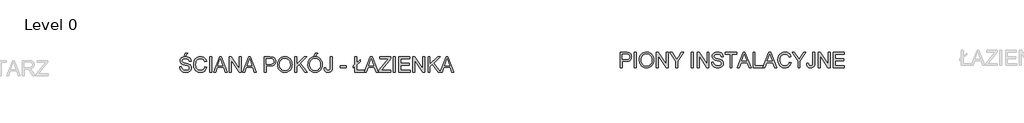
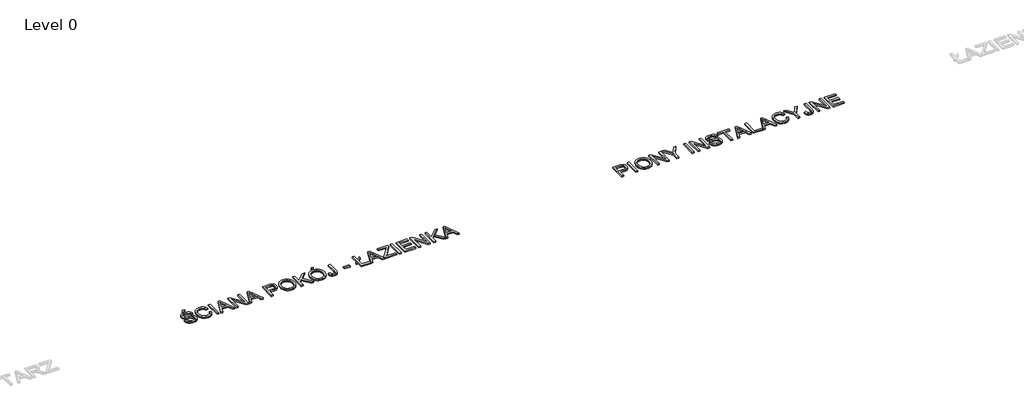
# One storey, part 3 of 4: 2 proxies.
"""IFC4 building model written with IfcOpenShell, lengths in millimetres."""

import ifcopenshell
import ifcopenshell.guid

model = None  # the IFC model being written
_history = None  # IfcOwnerHistory: only IFC2X3 demands one
_inside = {}  # id of a spatial element -> (the spatial element, [elements in it])
_under = {}  # id of a project, library or spatial element -> (it, [spatial elements below it])
_declared = {}  # id of a project -> (the project, [libraries it declares])
_typed = {}  # id of a type object -> (the type object, [elements of that type])
_made_of = {}  # id of a material, layer set ... -> (it, [elements and type objects made of it])


def new_model(schema):
    """Start an empty IFC model of exactly this schema.

    Asked for "IFC4X3", IfcOpenShell would pick the latest addendum, in which some entities
    have other attributes; the version numbers below select the first issue.
    IFC2X3 requires an IfcOwnerHistory on every rooted entity: one is made here for all.
    """
    global model, _history
    if schema == "IFC4X3":
        model = ifcopenshell.file(schema_version=(4, 3, 0, 0))
    else:
        model = ifcopenshell.file(schema=schema)
    _inside.clear()
    _under.clear()
    _declared.clear()
    _typed.clear()
    _made_of.clear()
    _history = None
    if model.schema == "IFC2X3":
        org = make("IfcOrganization", Name="unknown")
        user = make(
            "IfcPersonAndOrganization",
            ThePerson=make("IfcPerson", FamilyName="unknown"),
            TheOrganization=org,
        )
        app = make(
            "IfcApplication",
            ApplicationDeveloper=org,
            Version="unknown",
            ApplicationFullName="unknown",
            ApplicationIdentifier="unknown",
        )
        _history = make(
            "IfcOwnerHistory",
            OwningUser=user,
            OwningApplication=app,
            ChangeAction="ADDED",
            CreationDate=0,
        )
    return model


def make(cls, **values):
    """One entity of the class cls with the attributes given. An attribute that is None is left unset."""
    return model.create_entity(
        cls, **{name: value for name, value in values.items() if value is not None}
    )


def rooted(cls, **values):
    """An entity with a GlobalId (a new one), such as an element, a storey or a relation."""
    return make(cls, GlobalId=ifcopenshell.guid.new(), OwnerHistory=_history, **values)


def si_unit(unit_type, name, prefix=None):
    """IfcSIUnit, for example si_unit("LENGTHUNIT", "METRE", prefix="MILLI")."""
    return make("IfcSIUnit", UnitType=unit_type, Prefix=prefix, Name=name)


def assignment(units):
    """IfcUnitAssignment: the units of a project."""
    return None if units is None else make("IfcUnitAssignment", Units=units)


def point(xyz):
    """IfcCartesianPoint."""
    return None if xyz is None else make("IfcCartesianPoint", Coordinates=xyz)


def direction(xyz):
    """IfcDirection."""
    return None if xyz is None else make("IfcDirection", DirectionRatios=xyz)


def frame(location, z_axis=None, x_axis=None):
    """IfcAxis2Placement3D, a coordinate frame: its origin and axes. An axis left out is left unset."""
    return make(
        "IfcAxis2Placement3D",
        Location=point(location),
        Axis=direction(z_axis),
        RefDirection=direction(x_axis),
    )


def origin():
    """The frame at (0, 0, 0) with its axes left unset."""
    return frame((0.0, 0.0, 0.0))


def origin_with_axes():
    """The frame at (0, 0, 0) with the z axis (0, 0, 1) and the x axis (1, 0, 0) written out."""
    return frame((0.0, 0.0, 0.0), z_axis=(0.0, 0.0, 1.0), x_axis=(1.0, 0.0, 0.0))


def place(relative_to, where):
    """IfcLocalPlacement: puts the frame where relative to a parent placement (None: the world)."""
    return make(
        "IfcLocalPlacement", PlacementRelTo=relative_to, RelativePlacement=where
    )


def context(
    kind, dimensions, precision=None, world=None, true_north=None, identifier=None
):
    """IfcGeometricRepresentationContext, for example the 3D "Model" context."""
    return make(
        "IfcGeometricRepresentationContext",
        ContextIdentifier=identifier,
        ContextType=kind,
        CoordinateSpaceDimension=dimensions,
        Precision=precision,
        WorldCoordinateSystem=world,
        TrueNorth=true_north,
    )


def project(units=None, contexts=None):
    """IfcProject with its units and contexts."""
    return rooted(
        "IfcProject",
        Name="project",
        RepresentationContexts=contexts,
        UnitsInContext=assignment(units),
    )


def spatial(cls, under=None, at=None, **own):
    """A site, building, storey or space (cls), placed at a placement, below another one or the project."""
    s = rooted(cls, ObjectPlacement=at, **own)
    if under is not None:
        _under.setdefault(under.id(), (under, []))[1].append(s)
    return s


def polyline(points):
    """IfcPolyline through the points."""
    return make("IfcPolyline", Points=[point(p) for p in points])


def outline(outer, holes=None, kind="AREA"):
    """IfcArbitraryClosedProfileDef: a profile drawn as a closed curve; with holes, ...WithVoids."""
    if holes is None:
        return make("IfcArbitraryClosedProfileDef", ProfileType=kind, OuterCurve=outer)
    return make(
        "IfcArbitraryProfileDefWithVoids",
        ProfileType=kind,
        OuterCurve=outer,
        InnerCurves=holes,
    )


def extrude(swept, where, along, depth):
    """IfcExtrudedAreaSolid: the profile swept, set in the frame where, extruded along a direction by depth."""
    return make(
        "IfcExtrudedAreaSolid",
        SweptArea=swept,
        Position=where,
        ExtrudedDirection=direction(along),
        Depth=depth,
    )


def shape(context_of_items, identifier, shape_type, items):
    """IfcShapeRepresentation: the items that make up one representation, for example the "Body"."""
    return make(
        "IfcShapeRepresentation",
        ContextOfItems=context_of_items,
        RepresentationIdentifier=identifier,
        RepresentationType=shape_type,
        Items=items,
    )


def made_of(thing, what):
    """Note that an element or type object is made of a material, layer set ...; save() writes the relation."""
    if what is not None:
        _made_of.setdefault(what.id(), (what, []))[1].append(thing)
    return thing


def element(
    cls,
    number,
    at=None,
    inside=None,
    cuts=None,
    type_object=None,
    material=None,
    context=None,
    identifier="Body",
    shape_type=None,
    held_by="IfcProductDefinitionShape",
    body=None,
    shapes=None,
    **own,
):
    """One element of the class cls, such as IfcWall. Its Tag is "e" and its number.

    at: its placement. inside: the storey or other place that contains it. cuts: it is an
    opening in that element (IfcRelVoidsElement). A single representation is given by context,
    identifier, shape_type and body (its items); several are given by shapes. held_by: the class
    of the entity that holds the representations. save() writes the other relations.
    """
    e = rooted(cls, Tag="e%d" % number, ObjectPlacement=at, **own)
    if body is not None:
        shapes = [shape(context, identifier, shape_type, body)]
    if shapes is not None:
        e.Representation = make(held_by, Representations=shapes)
    if inside is not None:
        _inside.setdefault(inside.id(), (inside, []))[1].append(e)
    if cuts is not None:
        rooted(
            "IfcRelVoidsElement", RelatingBuildingElement=cuts, RelatedOpeningElement=e
        )
    if type_object is not None:
        _typed.setdefault(type_object.id(), (type_object, []))[1].append(e)
    return made_of(e, material)


def aggregate(whole, parts):
    """IfcRelAggregates: a whole, such as a stair, and the parts it consists of."""
    return rooted("IfcRelAggregates", RelatingObject=whole, RelatedObjects=parts)


def save(model, path):
    """Write the relations noted so far, then the file.

    IfcRelAggregates (storeys below a building ...), IfcRelContainedInSpatialStructure (elements
    in a storey), IfcRelDefinesByType, IfcRelAssociatesMaterial and IfcRelDeclares: one each for
    every whole, place, type object, material and project.
    """
    for whole, parts in _under.values():
        aggregate(whole, parts)
    for where, things in _inside.values():
        rooted(
            "IfcRelContainedInSpatialStructure",
            RelatedElements=things,
            RelatingStructure=where,
        )
    for kind, things in _typed.values():
        rooted("IfcRelDefinesByType", RelatedObjects=things, RelatingType=kind)
    for what, things in _made_of.values():
        rooted("IfcRelAssociatesMaterial", RelatedObjects=things, RelatingMaterial=what)
    for by, libraries in _declared.values():
        rooted("IfcRelDeclares", RelatingContext=by, RelatedDefinitions=libraries)
    model.write(path)


model = new_model("IFC4")

# Units and contexts
model_context = context("Model", 3, world=origin())
ifc_project = project(units=[si_unit("LENGTHUNIT", "METRE", prefix="MILLI")], contexts=[model_context])

# Site, building, storey
site = spatial("IfcSite", under=ifc_project)
building = spatial("IfcBuilding", under=site)
storey = spatial("IfcBuildingStorey", under=building, Name="Level 0", Elevation=0.0)

# Proxies
placement = place(None, origin())
element("IfcBuildingElementProxy", 1, Name="600mm Arial", ObjectType="600mm Arial", at=placement, inside=storey, context=model_context, shape_type="SweptSolid", body=[
    extrude(outline(polyline([(108275.8713044, 14292.1380657), (108275.8713044, 14894.8759266), (108499.2492519, 14894.8759266), (108551.267766, 14893.4411868), (108589.3067643, 14889.1369675), (108629.4610841, 14878.4132073), (108662.5152814, 14860.9572067), (108689.1315437, 14835.9780192), (108709.9720587, 14802.6846986), (108723.4365398, 14763.4132956), (108727.9247001, 14720.4998609), (108724.8942722, 14683.5001292), (108715.8029884, 14649.4618476), (108700.6508487, 14618.3850161), (108679.4378531, 14590.2696346), (108650.3153947, 14566.9643102), (108611.4348663, 14550.3176499), (108562.7962681, 14540.3296538), (108504.3995998, 14537.0003217), (108351.2135371, 14537.0003217), (108351.2135371, 14292.1380657), (108275.8713044, 14292.1380657)]), holes=[polyline([(108351.2135371, 14612.3425543), (108508.8141838, 14612.3425543), (108545.0505603, 14614.0715997), (108575.6215541, 14619.2587358), (108600.5271652, 14627.9039627), (108619.7673935, 14640.0072804), (108634.1239884, 14655.246792), (108644.378699, 14673.3006009), (108650.5315254, 14694.1687071), (108652.5824675, 14717.8511105), (108647.7448193, 14751.6962541), (108633.2318746, 14780.2438969), (108610.8462551, 14801.7282054), (108582.3905828, 14814.3833461), (108553.3279052, 14818.246107), (108507.0483502, 14819.533694), (108351.2135371, 14819.533694), (108351.2135371, 14612.3425543)])]), origin_with_axes(), (0.0, 0.0, 1.0), 50.0),
    extrude(outline(polyline([(108840.938049, 14292.1380657), (108840.938049, 14894.8759266), (108916.2802816, 14894.8759266), (108916.2802816, 14292.1380657), (108840.938049, 14292.1380657)])), origin_with_axes(), (0.0, 0.0, 1.0), 50.0),
    extrude(outline(polyline([(109038.7114096, 14585.5607451), (109043.7329989, 14656.2584675), (109058.7977666, 14718.8443919), (109083.9057127, 14773.3185184), (109100.2258778, 14797.5136573), (109119.0568374, 14819.6808468), (109162.1450161, 14856.6989726), (109211.0641244, 14883.140491), (109265.8141623, 14899.005402), (109326.3951299, 14904.2937057), (109366.9449228, 14901.8105022), (109405.4529706, 14894.3608918), (109441.9192734, 14881.9448745), (109476.3438311, 14864.5624502), (109507.7609535, 14842.7378508), (109535.2049503, 14816.9953082), (109558.6758216, 14787.3348224), (109578.1735674, 14753.7563933), (109593.4958525, 14717.023376), (109604.4403418, 14677.8991259), (109611.0070354, 14636.3836427), (109613.1959333, 14592.4769266), (109610.8920723, 14547.9907963), (109603.9804893, 14505.9142931), (109592.4611844, 14466.247417), (109576.3341574, 14428.9901679), (109555.981086, 14395.1266303), (109531.7836478, 14365.6408883), (109503.7418427, 14340.5329422), (109471.8556708, 14319.8027917), (109437.3805293, 14303.5791958), (109401.5718156, 14291.9909129), (109364.4295296, 14285.0379432), (109325.9536715, 14282.7202866), (109284.6957057, 14285.281665), (109245.6818201, 14292.9658002), (109208.9120147, 14305.7726922), (109174.3862895, 14323.7023409), (109143.0059553, 14346.0603692), (109115.672323, 14372.1523997), (109092.3853927, 14401.9784324), (109073.1451644, 14435.5384674), (109058.0803967, 14471.4851369), (109047.3198483, 14508.471073), (109040.8635193, 14546.4962757), (109038.7114096, 14585.5607451)]), holes=[polyline([(109114.0536423, 14584.8249811), (109117.8198342, 14534.8758032), (109129.11841, 14490.5368257), (109147.9493696, 14451.8080487), (109174.3127131, 14418.6894721), (109206.3598334, 14392.1651802), (109242.2421235, 14373.2192574), (109281.9595834, 14361.8517038), (109325.5122131, 14358.0625192), (109369.8098038, 14361.888492), (109409.9963133, 14373.3664102), (109446.0717414, 14392.496274), (109478.0360883, 14419.2780832), (109504.2062937, 14453.0956357), (109522.8992976, 14493.3327289), (109534.1150999, 14539.9893629), (109537.8537007, 14593.0655378), (109536.253414, 14627.5452778), (109531.452554, 14659.7625435), (109523.4511206, 14689.7173349), (109512.2491138, 14717.4096521), (109497.9706939, 14742.4762116), (109480.7400209, 14764.5537298), (109460.557095, 14783.6422068), (109437.421916, 14799.7416427), (109412.0518539, 14812.5209435), (109385.1642786, 14821.6490155), (109356.75919, 14827.1258587), (109326.8365883, 14828.9514731), (109284.7968733, 14825.4336015), (109245.7921847, 14814.8799868), (109209.8225226, 14797.2906289), (109176.887887, 14772.6655278), (109149.3979049, 14739.8182642), (109129.7622034, 14697.5624185), (109117.9807825, 14645.8979908), (109114.0536423, 14584.8249811)])]), origin_with_axes(), (0.0, 0.0, 1.0), 50.0),
    extrude(outline(polyline([(109716.7915031, 14292.1380657), (109716.7915031, 14894.8759266), (109797.4312365, 14894.8759266), (110112.3382244, 14417.3650969), (110112.3382244, 14894.8759266), (110187.680457, 14894.8759266), (110187.680457, 14292.1380657), (110107.0407236, 14292.1380657), (109792.1337358, 14769.7960482), (109792.1337358, 14292.1380657), (109716.7915031, 14292.1380657)])), origin_with_axes(), (0.0, 0.0, 1.0), 50.0),
    extrude(outline(polyline([(110489.0493874, 14292.1380657), (110489.0493874, 14547.4481704), (110253.6049105, 14894.8759266), (110342.4852005, 14894.8759266), (110468.1536901, 14709.3162482), (110532.4594629, 14614.6969991), (110596.9123884, 14716.085277), (110710.9558069, 14894.8759266), (110799.8360969, 14894.8759266), (110564.39162, 14547.4481704), (110564.39162, 14292.1380657), (110489.0493874, 14292.1380657)])), origin_with_axes(), (0.0, 0.0, 1.0), 50.0),
    extrude(outline(polyline([(111110.6228065, 14292.1380657), (111110.6228065, 14894.8759266), (111185.9650391, 14894.8759266), (111185.9650391, 14292.1380657), (111110.6228065, 14292.1380657)])), origin_with_axes(), (0.0, 0.0, 1.0), 50.0),
    extrude(outline(polyline([(111336.6495043, 14292.1380657), (111336.6495043, 14894.8759266), (111417.2892377, 14894.8759266), (111732.1962255, 14417.3650969), (111732.1962255, 14894.8759266), (111807.5384581, 14894.8759266), (111807.5384581, 14292.1380657), (111726.8987248, 14292.1380657), (111411.9917369, 14769.7960482), (111411.9917369, 14292.1380657), (111336.6495043, 14292.1380657)])), origin_with_axes(), (0.0, 0.0, 1.0), 50.0),
    extrude(outline(polyline([(111911.134028, 14499.3292054), (111986.4762606, 14499.3292054), (111995.1214875, 14457.5194166), (112010.7564723, 14423.9133964), (112035.1470486, 14397.2419517), (112070.0590499, 14376.2358898), (112112.7333613, 14362.6058619), (112160.4108679, 14358.0625192), (112202.3862036, 14361.5022159), (112239.1376149, 14371.8213059), (112268.9176624, 14388.1552665), (112289.9789066, 14409.639575), (112302.5052885, 14434.3060627), (112306.6807492, 14460.1865611), (112303.5537522, 14485.4048719), (112294.1727614, 14507.2018801), (112275.116474, 14525.7983149), (112242.9635876, 14541.4149056), (112133.2611767, 14570.1832777), (112061.2482761, 14589.2211709), (112015.1710562, 14607.3393592), (111977.6654868, 14632.6864286), (111951.0860127, 14663.4045752), (111935.2486928, 14698.8316114), (111929.9695861, 14738.3053495), (111931.6020625, 14760.7415526), (111936.4994915, 14782.4327948), (111944.6618733, 14803.3790759), (111956.0892078, 14823.5803959), (111970.6527363, 14842.213619), (111988.2237001, 14858.4556091), (112008.8020992, 14872.3063662), (112032.3879336, 14883.7658904), (112085.3997291, 14899.1617519), (112144.0769073, 14904.2937057), (112207.6469161, 14898.9226286), (112263.2706738, 14882.8093972), (112287.6060677, 14870.8072471), (112308.9616176, 14856.2851053), (112327.3373232, 14839.2429719), (112342.7331847, 14819.6808468), (112355.0296404, 14798.1689471), (112364.1071286, 14775.27749), (112369.9656494, 14751.0064753), (112372.6052027, 14725.3559032), (112297.2629701, 14725.3559032), (112292.2229868, 14749.3969916), (112283.4306071, 14770.311083), (112270.8858311, 14788.0981775), (112254.5886587, 14802.758275), (112234.2355873, 14814.2177992), (112209.5231143, 14822.4031736), (112180.4512396, 14827.3143982), (112147.0199633, 14828.9514731), (112112.5218292, 14827.3327923), (112083.0452843, 14822.47675), (112058.5903287, 14814.3833461), (112039.1569623, 14803.0525806), (112024.349712, 14789.4317497), (112013.7731046, 14774.4681496), (112007.4271402, 14758.1617802), (112005.3118187, 14740.5126414), (112006.8109379, 14725.3283121), (112011.3082953, 14711.5603284), (112018.8038909, 14699.2086904), (112029.2977248, 14688.2733981), (112045.8156264, 14677.91752), (112071.8248835, 14667.4512772), (112152.317464, 14646.1876979), (112235.3852185, 14625.9909763), (112285.6378991, 14608.3694288), (112328.588122, 14581.0357965), (112345.1933956, 14564.9685504), (112358.5521105, 14547.3010176), (112368.8206167, 14528.1251686), (112376.155264, 14507.5329739), (112382.0229818, 14462.0995475), (112380.3353232, 14438.5321072), (112375.2723472, 14415.6544456), (112366.8340539, 14393.4665628), (112355.0204434, 14371.9684587), (112340.0384491, 14351.9924663), (112322.0950048, 14334.3709188), (112301.1901104, 14319.103816), (112277.323766, 14306.1911579), (112251.1903487, 14295.9226517), (112223.484236, 14288.5880045), (112163.3539239, 14282.7202866), (112124.8136864, 14284.3021792), (112089.5384015, 14289.047857), (112057.5280694, 14296.9573198), (112028.78269, 14308.0305679), (112003.1275194, 14322.2859952), (111980.3878136, 14339.7419959), (111960.5635726, 14360.3985699), (111943.6547964, 14384.2557173), (111930.0339655, 14410.5408859), (111920.0735605, 14438.4815234), (111913.7735813, 14468.0776299), (111911.134028, 14499.3292054)])), origin_with_axes(), (0.0, 0.0, 1.0), 50.0),
    extrude(outline(polyline([(112645.7207959, 14292.1380657), (112645.7207959, 14819.533694), (112447.9474353, 14819.533694), (112447.9474353, 14894.8759266), (112918.8363892, 14894.8759266), (112918.8363892, 14819.533694), (112721.0630286, 14819.533694), (112721.0630286, 14292.1380657), (112645.7207959, 14292.1380657)])), origin_with_axes(), (0.0, 0.0, 1.0), 50.0),
    extrude(outline(polyline([(112933.4045162, 14292.1380657), (113173.999341, 14894.8759266), (113238.157961, 14894.8759266), (113478.7527858, 14292.1380657), (113399.1431221, 14292.1380657), (113330.1284598, 14480.4936472), (113081.8816894, 14480.4936472), (113013.0141799, 14292.1380657), (112933.4045162, 14292.1380657)]), holes=[polyline([(113109.5464155, 14555.8358799), (113302.6108865, 14555.8358799), (113248.311504, 14704.0187475), (113206.078651, 14819.533694), (113168.5546875, 14716.9681937), (113109.5464155, 14555.8358799)])]), origin_with_axes(), (0.0, 0.0, 1.0), 50.0),
    extrude(outline(polyline([(113559.2453664, 14292.1380657), (113559.2453664, 14894.8759266), (113634.587599, 14894.8759266), (113634.587599, 14367.4802983), (113935.9565294, 14367.4802983), (113935.9565294, 14292.1380657), (113559.2453664, 14292.1380657)])), origin_with_axes(), (0.0, 0.0, 1.0), 50.0),
    extrude(outline(polyline([(113950.5246564, 14292.1380657), (114191.1194813, 14894.8759266), (114255.2781012, 14894.8759266), (114495.8729261, 14292.1380657), (114416.2632623, 14292.1380657), (114347.2486, 14480.4936472), (114099.0018297, 14480.4936472), (114030.1343202, 14292.1380657), (113950.5246564, 14292.1380657)]), holes=[polyline([(114126.6665557, 14555.8358799), (114319.7310268, 14555.8358799), (114265.4316443, 14704.0187475), (114223.1987913, 14819.533694), (114185.6748278, 14716.9681937), (114126.6665557, 14555.8358799)])]), origin_with_axes(), (0.0, 0.0, 1.0), 50.0),
    extrude(outline(polyline([(115000.1655651, 14506.3925397), (115075.5077977, 14486.9683704), (115060.5993798, 14440.1139997), (115040.7429491, 14399.1733322), (115015.9385056, 14364.1463677), (114986.1860493, 14335.0331063), (114952.1569647, 14312.1462477), (114914.5226366, 14295.7984916), (114873.2830649, 14285.9898379), (114828.4382497, 14282.7202866), (114782.4943871, 14285.1942931), (114741.0478818, 14292.6163123), (114704.0987339, 14304.9863444), (114671.6469434, 14322.3043893), (114643.2464534, 14344.3129297), (114618.4512069, 14370.7544481), (114597.261204, 14401.6289445), (114579.6764446, 14436.936419), (114565.8670742, 14475.1501613), (114556.0032382, 14514.743461), (114550.0849366, 14555.7163182), (114548.1121694, 14598.0687329), (114550.342454, 14643.5113564), (114557.0333078, 14685.9557415), (114568.1847308, 14725.4018885), (114583.7967229, 14761.8497972), (114603.5197964, 14794.6970608), (114627.0044633, 14823.3412726), (114654.2507235, 14847.7824327), (114685.2585772, 14868.020541), (114718.9749621, 14883.8900505), (114754.3468159, 14895.2254145), (114791.3741387, 14902.0266329), (114830.0569305, 14904.2937057), (114873.1497077, 14901.3598468), (114912.6648325, 14892.55827), (114948.6023049, 14877.8889755), (114980.9621249, 14857.3519631), (115009.2108636, 14831.4898588), (115032.8150922, 14800.8452886), (115051.7748105, 14765.4182525), (115066.0900186, 14725.2087504), (114990.747786, 14707.2561091), (114978.8835917, 14736.8844053), (114964.6281643, 14762.199285), (114947.9815041, 14783.2007484), (114928.9436108, 14799.8887955), (114907.40412, 14812.6037169), (114883.252667, 14821.6858037), (114856.4892519, 14827.1350557), (114827.1138745, 14828.9514731), (114793.3147162, 14826.9373192), (114762.4034316, 14820.8948574), (114734.3800206, 14810.8240878), (114709.2444833, 14796.7250103), (114687.3141179, 14779.2322214), (114668.9062225, 14758.9803176), (114654.0207973, 14735.9692988), (114642.6578422, 14710.199165), (114628.2552621, 14655.053654), (114623.454402, 14598.2158857), (114629.1381788, 14528.6126122), (114636.2428999, 14497.3426426), (114646.1895093, 14468.4271178), (114659.1389556, 14442.4408534), (114675.2521869, 14419.9586649), (114694.5292035, 14400.9805525), (114716.9700052, 14385.5065161), (114741.4847416, 14373.4997675), (114766.9835624, 14364.9235185), (114793.4664676, 14359.7777691), (114820.933457, 14358.0625192), (114853.6887502, 14360.3985699), (114883.8228841, 14367.4067219), (114911.3358588, 14379.0869753), (114936.2276743, 14395.43933), (114957.9097194, 14416.3902096), (114975.7933829, 14441.8660377), (114989.8786648, 14471.8668145), (115000.1655651, 14506.3925397)])), origin_with_axes(), (0.0, 0.0, 1.0), 50.0),
    extrude(outline(polyline([(115348.6233909, 14292.1380657), (115348.6233909, 14547.4481704), (115113.178914, 14894.8759266), (115202.059204, 14894.8759266), (115327.7276936, 14709.3162482), (115392.0334663, 14614.6969991), (115456.4863919, 14716.085277), (115570.5298104, 14894.8759266), (115659.4101004, 14894.8759266), (115423.9656235, 14547.4481704), (115423.9656235, 14292.1380657), (115348.6233909, 14292.1380657)])), origin_with_axes(), (0.0, 0.0, 1.0), 50.0),
    extrude(outline(polyline([(115687.6634377, 14461.3637835), (115763.0056703, 14471.0758682), (115765.6636177, 14441.1210767), (115770.8415568, 14416.2982391), (115778.5394875, 14396.6073553), (115788.7574099, 14382.0484253), (115801.3389742, 14371.5545914), (115816.1278304, 14364.0589958), (115833.1239786, 14359.5616384), (115852.3274187, 14358.0625192), (115880.1576916, 14361.4654277), (115903.9044744, 14371.6741531), (115922.2249978, 14387.7505963), (115933.7764924, 14408.7566582), (115939.9017277, 14439.1621051), (115941.9434727, 14483.4367032), (115941.9434727, 14894.8759266), (116017.2857053, 14894.8759266), (116017.2857053, 14484.7610784), (116012.7423627, 14417.6777966), (116007.0631844, 14390.5510979), (115999.1123348, 14367.7010275), (115988.6920773, 14348.2170774), (115975.6046753, 14331.1887395), (115959.8501288, 14316.616014), (115941.4284379, 14304.4989007), (115898.5150032, 14288.1649402), (115848.7957516, 14282.7202866), (115811.6672612, 14285.5299854), (115779.1556899, 14293.9590816), (115751.2610376, 14308.0075753), (115727.9833043, 14327.6754664), (115709.7363574, 14352.8891787), (115696.9340639, 14383.5751356), (115689.576424, 14419.7333372), (115687.6634377, 14461.3637835)])), origin_with_axes(), (0.0, 0.0, 1.0), 50.0),
    extrude(outline(polyline([(116149.1346124, 14292.1380657), (116149.1346124, 14894.8759266), (116229.7743458, 14894.8759266), (116544.6813336, 14417.3650969), (116544.6813336, 14894.8759266), (116620.0235662, 14894.8759266), (116620.0235662, 14292.1380657), (116539.3838329, 14292.1380657), (116224.476845, 14769.7960482), (116224.476845, 14292.1380657), (116149.1346124, 14292.1380657)])), origin_with_axes(), (0.0, 0.0, 1.0), 50.0),
    extrude(outline(polyline([(116751.8724733, 14292.1380657), (116751.8724733, 14894.8759266), (117185.0903108, 14894.8759266), (117185.0903108, 14819.533694), (116827.2147059, 14819.533694), (116827.2147059, 14640.5958915), (117166.2547527, 14640.5958915), (117166.2547527, 14565.2536589), (116827.2147059, 14565.2536589), (116827.2147059, 14367.4802983), (117194.5080899, 14367.4802983), (117194.5080899, 14292.1380657), (116751.8724733, 14292.1380657)])), origin_with_axes(), (0.0, 0.0, 1.0), 50.0),
])
element("IfcBuildingElementProxy", 2, Name="600mm Arial", ObjectType="600mm Arial", at=placement, inside=storey, context=model_context, shape_type="SweptSolid", body=[
    extrude(outline(polyline([(90757.8908742, 14317.065424), (90833.2331068, 14317.065424), (90841.8783337, 14275.2556352), (90857.5133185, 14241.6496149), (90881.9038947, 14214.9781703), (90916.8158961, 14193.9721084), (90959.4902075, 14180.3420805), (91007.1677141, 14175.7987378), (91049.1430498, 14179.2384345), (91085.8944611, 14189.5575244), (91115.6745086, 14205.891485), (91136.7357528, 14227.3757935), (91149.2621347, 14252.0422813), (91153.4375954, 14277.9227797), (91150.3105984, 14303.1410904), (91140.9296075, 14324.9380987), (91121.8733202, 14343.5345335), (91089.7204338, 14359.1511242), (90980.0180229, 14387.9194962), (90908.0051223, 14406.9573895), (90861.9279024, 14425.0755777), (90824.422333, 14450.4226472), (90797.8428588, 14481.1407938), (90782.005539, 14516.5678299), (90776.7264323, 14556.041568), (90778.3589087, 14578.4777712), (90783.2563377, 14600.1690133), (90791.4187195, 14621.1152944), (90802.846054, 14641.3166145), (90817.4095825, 14659.9498376), (90834.9805463, 14676.1918276), (90855.5589454, 14690.0425848), (90879.1447798, 14701.5021089), (90932.1565753, 14716.8979704), (90990.8337535, 14722.0299242), (91054.4037623, 14716.6588471), (91110.02752, 14700.5456157), (91134.3629139, 14688.5434656), (91155.7184638, 14674.0213239), (91174.0941694, 14656.9791905), (91189.4900309, 14637.4170654), (91201.7864866, 14615.9051657), (91210.8639748, 14593.0137085), (91216.7224956, 14568.7426939), (91219.3620489, 14543.0921218), (91144.0198163, 14543.0921218), (91138.979833, 14567.1332102), (91130.1874533, 14588.0473016), (91117.6426773, 14605.8343961), (91101.3455049, 14620.4944936), (91080.9924335, 14631.9540177), (91056.2799605, 14640.1393921), (91027.2080858, 14645.0506168), (90993.7768095, 14646.6876916), (90959.2786754, 14645.0690109), (90929.8021305, 14640.2129685), (90905.3471749, 14632.1195646), (90885.9138085, 14620.7887992), (90871.1065582, 14607.1679683), (90860.5299508, 14592.2043682), (90854.1839864, 14575.8979987), (90852.0686649, 14558.24886), (90853.5677841, 14543.0645306), (90858.0651415, 14529.296547), (90865.5607371, 14516.944909), (90876.054571, 14506.0096167), (90892.5724726, 14495.6537385), (90918.5817297, 14485.1874958), (90999.0743102, 14463.9239164), (91082.1420647, 14443.7271949), (91132.3947453, 14426.1056473), (91175.3449682, 14398.7720151), (91191.9502418, 14382.7047689), (91205.3089567, 14365.0372361), (91215.5774629, 14345.8613871), (91222.9121102, 14325.2691925), (91228.779828, 14279.835766), (91227.0921693, 14256.2683257), (91222.0291934, 14233.3906642), (91213.5909001, 14211.2027813), (91201.7772895, 14189.7046772), (91186.7952953, 14169.7286849), (91168.851851, 14152.1071373), (91147.9469566, 14136.8400345), (91124.0806122, 14123.9273765), (91097.9471949, 14113.6588703), (91070.2410822, 14106.324223), (91010.1107701, 14100.4565052), (90971.5705325, 14102.0383978), (90936.2952477, 14106.7840755), (90904.2849156, 14114.6935384), (90875.5395362, 14125.7667865), (90849.8843656, 14140.0222138), (90827.1446598, 14157.4782145), (90807.3204187, 14178.1347885), (90790.4116425, 14201.9919359), (90776.7908117, 14228.2771044), (90766.8304067, 14256.217742), (90760.5304275, 14285.8138485), (90757.8908742, 14317.065424)])), origin_with_axes(), (0.0, 0.0, 1.0), 50.0),
    extrude(outline(polyline([(90936.8286766, 14750.2832615), (90993.3353511, 14863.2966104), (91087.5131418, 14863.2966104), (90993.3353511, 14750.2832615), (90936.8286766, 14750.2832615)])), origin_with_axes(), (0.0, 0.0, 1.0), 50.0),
    extrude(outline(polyline([(91765.5932354, 14324.1287583), (91840.935468, 14304.7045889), (91826.0270501, 14257.8502183), (91806.1706194, 14216.9095508), (91781.3661759, 14181.8825863), (91751.6137195, 14152.7693249), (91717.584635, 14129.8824663), (91679.9503069, 14113.5347101), (91638.7107352, 14103.7260564), (91593.86592, 14100.4565052), (91547.9220573, 14102.9305116), (91506.4755521, 14110.3525309), (91469.5264042, 14122.722563), (91437.0746137, 14140.0406079), (91408.6741236, 14162.0491482), (91383.8788772, 14188.4906666), (91362.6888742, 14219.3651631), (91345.1041149, 14254.6726376), (91331.2947445, 14292.8863798), (91321.4309085, 14332.4796796), (91315.5126069, 14373.4525368), (91313.5398397, 14415.8049515), (91315.7701243, 14461.2475749), (91322.4609781, 14503.6919601), (91333.612401, 14543.138107), (91349.2243932, 14579.5860157), (91368.9474667, 14612.4332794), (91392.4321335, 14641.0774912), (91419.6783938, 14665.5186513), (91450.6862475, 14685.7567595), (91484.4026323, 14701.6262691), (91519.7744862, 14712.9616331), (91556.801809, 14719.7628515), (91595.4846008, 14722.0299242), (91638.577378, 14719.0960653), (91678.0925028, 14710.2944886), (91714.0299752, 14695.625194), (91746.3897952, 14675.0881817), (91774.6385339, 14649.2260774), (91798.2427624, 14618.5815072), (91817.2024808, 14583.1544711), (91831.5176889, 14542.944969), (91756.1754563, 14524.9923276), (91744.3112619, 14554.6206238), (91730.0558346, 14579.9355036), (91713.4091743, 14600.936967), (91694.3712811, 14617.625014), (91672.8317903, 14630.3399355), (91648.6803373, 14639.4220222), (91621.9169221, 14644.8712743), (91592.5415448, 14646.6876916), (91558.7423865, 14644.6735377), (91527.8311019, 14638.6310759), (91499.8076909, 14628.5603063), (91474.6721536, 14614.4612289), (91452.7417881, 14596.96844), (91434.3338928, 14576.7165362), (91419.4484676, 14553.7055174), (91408.0855124, 14527.9353836), (91393.6829323, 14472.7898725), (91388.8820723, 14415.9521043), (91394.5658491, 14346.3488308), (91401.6705702, 14315.0788612), (91411.6171796, 14286.1633364), (91424.5666258, 14260.1770719), (91440.6798572, 14237.6948835), (91459.9568738, 14218.7167711), (91482.3976755, 14203.2427347), (91506.9124119, 14191.235986), (91532.4112327, 14182.659737), (91558.8941378, 14177.5139876), (91586.3611273, 14175.7987378), (91619.1164205, 14178.1347885), (91649.2505544, 14185.1429405), (91676.7635291, 14196.8231938), (91701.6553446, 14213.1755485), (91723.3373897, 14234.1264281), (91741.2210532, 14259.6022563), (91755.3063351, 14289.603033), (91765.5932354, 14324.1287583)])), origin_with_axes(), (0.0, 0.0, 1.0), 50.0),
    extrude(outline(polyline([(91953.9488169, 14109.8742843), (91953.9488169, 14712.6121452), (92029.2910495, 14712.6121452), (92029.2910495, 14109.8742843), (91953.9488169, 14109.8742843)])), origin_with_axes(), (0.0, 0.0, 1.0), 50.0),
    extrude(outline(polyline([(92109.78363, 14109.8742843), (92350.3784549, 14712.6121452), (92414.5370748, 14712.6121452), (92655.1318997, 14109.8742843), (92575.5222359, 14109.8742843), (92506.5075736, 14298.2298658), (92258.2608033, 14298.2298658), (92189.3932938, 14109.8742843), (92109.78363, 14109.8742843)]), holes=[polyline([(92285.9255293, 14373.5720984), (92478.9900004, 14373.5720984), (92424.6906179, 14521.7549661), (92382.4577649, 14637.2699126), (92344.9338014, 14534.7044123), (92285.9255293, 14373.5720984)])]), origin_with_axes(), (0.0, 0.0, 1.0), 50.0),
    extrude(outline(polyline([(92735.6244802, 14109.8742843), (92735.6244802, 14712.6121452), (92816.2642136, 14712.6121452), (93131.1712015, 14235.1013154), (93131.1712015, 14712.6121452), (93206.5134341, 14712.6121452), (93206.5134341, 14109.8742843), (93125.8737007, 14109.8742843), (92810.9667129, 14587.5322668), (92810.9667129, 14109.8742843), (92735.6244802, 14109.8742843)])), origin_with_axes(), (0.0, 0.0, 1.0), 50.0),
    extrude(outline(polyline([(93268.1704565, 14109.8742843), (93508.7652813, 14712.6121452), (93572.9239013, 14712.6121452), (93813.5187261, 14109.8742843), (93733.9090624, 14109.8742843), (93664.8944001, 14298.2298658), (93416.6476297, 14298.2298658), (93347.7801202, 14109.8742843), (93268.1704565, 14109.8742843)]), holes=[polyline([(93444.3123557, 14373.5720984), (93637.3768268, 14373.5720984), (93583.0774443, 14521.7549661), (93540.8445913, 14637.2699126), (93503.3206278, 14534.7044123), (93444.3123557, 14373.5720984)])]), origin_with_axes(), (0.0, 0.0, 1.0), 50.0),
    extrude(outline(polyline([(94129.4557836, 14109.8742843), (94129.4557836, 14712.6121452), (94352.833731, 14712.6121452), (94404.8522452, 14711.1774054), (94442.8912435, 14706.873186), (94483.0455632, 14696.1494259), (94516.0997605, 14678.6934252), (94542.7160228, 14653.7142377), (94563.5565379, 14620.4209172), (94577.0210189, 14581.1495142), (94581.5091792, 14538.2360795), (94578.4787513, 14501.2363478), (94569.3874675, 14467.1980662), (94554.2353278, 14436.1212346), (94533.0223323, 14408.0058532), (94503.8998738, 14384.7005288), (94465.0193455, 14368.0538685), (94416.3807472, 14358.0658723), (94357.984079, 14354.7365403), (94204.7980162, 14354.7365403), (94204.7980162, 14109.8742843), (94129.4557836, 14109.8742843)]), holes=[polyline([(94204.7980162, 14430.0787729), (94362.3986629, 14430.0787729), (94398.6350394, 14431.8078183), (94429.2060332, 14436.9949544), (94454.1116443, 14445.6401813), (94473.3518727, 14457.7434989), (94487.7084675, 14472.9830106), (94497.9631781, 14491.0368195), (94504.1160045, 14511.9049257), (94506.1669466, 14535.5873291), (94501.3292984, 14569.4324726), (94486.8163537, 14597.9801155), (94464.4307343, 14619.464424), (94435.9750619, 14632.1195646), (94406.9123843, 14635.9823256), (94360.6328293, 14637.2699126), (94204.7980162, 14637.2699126), (94204.7980162, 14430.0787729)])]), origin_with_axes(), (0.0, 0.0, 1.0), 50.0),
    extrude(outline(polyline([(94656.8514119, 14403.2969636), (94661.8730011, 14473.9946861), (94676.9377688, 14536.5806105), (94702.045715, 14591.0547369), (94718.36588, 14615.2498759), (94737.1968396, 14637.4170654), (94780.2850183, 14674.4351911), (94829.2041266, 14700.8767095), (94883.9541645, 14716.7416206), (94944.5351321, 14722.0299242), (94985.084925, 14719.5467208), (95023.5929728, 14712.0971104), (95060.0592756, 14699.681093), (95094.4838333, 14682.2986688), (95125.9009557, 14660.4740694), (95153.3449525, 14634.7315268), (95176.8158238, 14605.0710409), (95196.3135696, 14571.4926118), (95211.6358547, 14534.7595946), (95222.580344, 14495.6353444), (95229.1470376, 14454.1198613), (95231.3359355, 14410.2131451), (95229.0320745, 14365.7270149), (95222.1204915, 14323.6505117), (95210.6011866, 14283.9836355), (95194.4741596, 14246.7263865), (95174.1210882, 14212.8628488), (95149.92365, 14183.3771069), (95121.8818449, 14158.2691607), (95089.995673, 14137.5390103), (95055.5205315, 14121.3154143), (95019.7118178, 14109.7271315), (94982.5695319, 14102.7741618), (94944.0936737, 14100.4565052), (94902.8357079, 14103.0178836), (94863.8218223, 14110.7020188), (94827.0520169, 14123.5089107), (94792.5262917, 14141.4385595), (94761.1459575, 14163.7965877), (94733.8123252, 14189.8886182), (94710.5253949, 14219.714651), (94691.2851666, 14253.274686), (94676.2203989, 14289.2213554), (94665.4598505, 14326.2072915), (94659.0035215, 14364.2324943), (94656.8514119, 14403.2969636)]), holes=[polyline([(94732.1936445, 14402.5611996), (94735.9598364, 14352.6120217), (94747.2584122, 14308.2730443), (94766.0893718, 14269.5442672), (94792.4527153, 14236.4256906), (94824.4998356, 14209.9013988), (94860.3821257, 14190.955476), (94900.0995856, 14179.5879224), (94943.6522153, 14175.7987378), (94987.949806, 14179.6247106), (95028.1363155, 14191.1026288), (95064.2117436, 14210.2324926), (95096.1760905, 14237.0143018), (95122.3462959, 14270.8318542), (95141.0392998, 14311.0689474), (95152.2551021, 14357.7255815), (95155.9937029, 14410.8017563), (95154.3934162, 14445.2814963), (95149.5925562, 14477.4987621), (95141.5911228, 14507.4535535), (95130.389116, 14535.1458707), (95116.1106961, 14560.2124301), (95098.8800232, 14582.2899484), (95078.6970972, 14601.3784254), (95055.5619182, 14617.4778612), (95030.1918561, 14630.257162), (95003.3042808, 14639.385234), (94974.8991923, 14644.8620772), (94944.9765905, 14646.6876916), (94902.9368755, 14643.1698201), (94863.9321869, 14632.6162053), (94827.9625249, 14615.0268474), (94795.0278892, 14590.4017464), (94767.5379071, 14557.5544827), (94747.9022057, 14515.2986371), (94736.1207848, 14463.6342094), (94732.1936445, 14402.5611996)])]), origin_with_axes(), (0.0, 0.0, 1.0), 50.0),
    extrude(outline(polyline([(95334.9315054, 14109.8742843), (95334.9315054, 14712.6121452), (95410.273738, 14712.6121452), (95410.273738, 14417.570785), (95719.2946139, 14712.6121452), (95824.6560173, 14712.6121452), (95565.2256343, 14464.8068332), (95834.0737964, 14109.8742843), (95741.9561448, 14109.8742843), (95511.8091686, 14413.8919651), (95410.273738, 14317.065424), (95410.273738, 14109.8742843), (95334.9315054, 14109.8742843)])), origin_with_axes(), (0.0, 0.0, 1.0), 50.0),
    extrude(outline(polyline([(96097.7716106, 14750.2832615), (96154.278285, 14863.2966104), (96248.4560758, 14863.2966104), (96154.278285, 14750.2832615), (96097.7716106, 14750.2832615)])), origin_with_axes(), (0.0, 0.0, 1.0), 50.0),
    extrude(outline(polyline([(95862.3271336, 14403.2969636), (95867.3487229, 14473.9946861), (95882.4134906, 14536.5806105), (95907.5214368, 14591.0547369), (95923.8416018, 14615.2498759), (95942.6725614, 14637.4170654), (95985.7607401, 14674.4351911), (96034.6798484, 14700.8767095), (96089.4298863, 14716.7416206), (96150.0108539, 14722.0299242), (96190.5606468, 14719.5467208), (96229.0686946, 14712.0971104), (96265.5349974, 14699.681093), (96299.9595551, 14682.2986688), (96331.3766775, 14660.4740694), (96358.8206743, 14634.7315268), (96382.2915456, 14605.0710409), (96401.7892914, 14571.4926118), (96417.1115765, 14534.7595946), (96428.0560658, 14495.6353444), (96434.6227594, 14454.1198613), (96436.8116573, 14410.2131451), (96434.5077963, 14365.7270149), (96427.5962133, 14323.6505117), (96416.0769084, 14283.9836355), (96399.9498814, 14246.7263865), (96379.59681, 14212.8628488), (96355.3993718, 14183.3771069), (96327.3575667, 14158.2691607), (96295.4713948, 14137.5390103), (96260.9962533, 14121.3154143), (96225.1875396, 14109.7271315), (96188.0452537, 14102.7741618), (96149.5693955, 14100.4565052), (96108.3114297, 14103.0178836), (96069.2975441, 14110.7020188), (96032.5277387, 14123.5089107), (95998.0020135, 14141.4385595), (95966.6216793, 14163.7965877), (95939.288047, 14189.8886182), (95916.0011167, 14219.714651), (95896.7608884, 14253.274686), (95881.6961207, 14289.2213554), (95870.9355723, 14326.2072915), (95864.4792433, 14364.2324943), (95862.3271336, 14403.2969636)]), holes=[polyline([(95937.6693663, 14402.5611996), (95941.4355582, 14352.6120217), (95952.734134, 14308.2730443), (95971.5650936, 14269.5442672), (95997.9284371, 14236.4256906), (96029.9755574, 14209.9013988), (96065.8578475, 14190.955476), (96105.5753074, 14179.5879224), (96149.1279371, 14175.7987378), (96193.4255278, 14179.6247106), (96233.6120373, 14191.1026288), (96269.6874654, 14210.2324926), (96301.6518123, 14237.0143018), (96327.8220177, 14270.8318542), (96346.5150216, 14311.0689474), (96357.7308239, 14357.7255815), (96361.4694247, 14410.8017563), (96359.869138, 14445.2814963), (96355.068278, 14477.4987621), (96347.0668446, 14507.4535535), (96335.8648378, 14535.1458707), (96321.5864179, 14560.2124301), (96304.355745, 14582.2899484), (96284.172819, 14601.3784254), (96261.03764, 14617.4778612), (96235.6675779, 14630.257162), (96208.7800026, 14639.385234), (96180.3749141, 14644.8620772), (96150.4523123, 14646.6876916), (96108.4125973, 14643.1698201), (96069.4079087, 14632.6162053), (96033.4382467, 14615.0268474), (96000.503611, 14590.4017464), (95973.0136289, 14557.5544827), (95953.3779275, 14515.2986371), (95941.5965066, 14463.6342094), (95937.6693663, 14402.5611996)])]), origin_with_axes(), (0.0, 0.0, 1.0), 50.0),
    extrude(outline(polyline([(96502.7361108, 14279.1000021), (96578.0783435, 14288.8120867), (96580.7362909, 14258.8572953), (96585.91423, 14234.0344576), (96593.6121607, 14214.3435739), (96603.8300831, 14199.7846439), (96616.4116474, 14189.29081), (96631.2005036, 14181.7952143), (96648.1966517, 14177.2978569), (96667.4000919, 14175.7987378), (96695.2303648, 14179.2016463), (96718.9771476, 14189.4103716), (96737.297671, 14205.4868148), (96748.8491656, 14226.4928767), (96754.9744008, 14256.8983236), (96757.0161459, 14301.1729218), (96757.0161459, 14712.6121452), (96832.3583785, 14712.6121452), (96832.3583785, 14302.4972969), (96827.8150359, 14235.4140151), (96822.1358576, 14208.2873165), (96814.185008, 14185.4372461), (96803.7647505, 14165.9532959), (96790.6773485, 14148.9249581), (96774.922802, 14134.3522325), (96756.5011111, 14122.2351193), (96713.5876764, 14105.9011587), (96663.8684247, 14100.4565052), (96626.7399344, 14103.2662039), (96594.2283631, 14111.6953002), (96566.3337108, 14125.7437938), (96543.0559775, 14145.411685), (96524.8090306, 14170.6253973), (96512.0067371, 14201.3113542), (96504.6490972, 14237.4695558), (96502.7361108, 14279.1000021)])), origin_with_axes(), (0.0, 0.0, 1.0), 50.0),
    extrude(outline(polyline([(97152.5628671, 14288.8120867), (97152.5628671, 14364.1543193), (97388.007344, 14364.1543193), (97388.007344, 14288.8120867), (97152.5628671, 14288.8120867)])), origin_with_axes(), (0.0, 0.0, 1.0), 50.0),
    extrude(outline(polyline([(97727.0473908, 14348.4089699), (97661.1229373, 14293.5209763), (97661.1229373, 14368.8632089), (97727.0473908, 14423.7512026), (97727.0473908, 14712.6121452), (97802.3896234, 14712.6121452), (97802.3896234, 14486.5854473), (97943.6563096, 14604.3076858), (97943.6563096, 14528.9654532), (97802.3896234, 14411.2432147), (97802.3896234, 14185.2165169), (98103.7585539, 14185.2165169), (98103.7585539, 14109.8742843), (97727.0473908, 14109.8742843), (97727.0473908, 14348.4089699)])), origin_with_axes(), (0.0, 0.0, 1.0), 50.0),
    extrude(outline(polyline([(98108.9089018, 14109.8742843), (98349.5037266, 14712.6121452), (98413.6623466, 14712.6121452), (98654.2571714, 14109.8742843), (98574.6475077, 14109.8742843), (98505.6328454, 14298.2298658), (98257.386075, 14298.2298658), (98188.5185655, 14109.8742843), (98108.9089018, 14109.8742843)]), holes=[polyline([(98285.0508011, 14373.5720984), (98478.1152722, 14373.5720984), (98423.8158897, 14521.7549661), (98381.5830366, 14637.2699126), (98344.0590731, 14534.7044123), (98285.0508011, 14373.5720984)])]), origin_with_axes(), (0.0, 0.0, 1.0), 50.0),
    extrude(outline(polyline([(98687.6608566, 14109.8742843), (98687.6608566, 14188.0124201), (98995.9459686, 14565.4593471), (99054.5127822, 14637.2699126), (98725.3319729, 14637.2699126), (98725.3319729, 14712.6121452), (99149.1320314, 14712.6121452), (99149.1320314, 14637.2699126), (98811.7106654, 14224.2120084), (98779.925661, 14185.2165169), (99158.5498104, 14185.2165169), (99158.5498104, 14109.8742843), (98687.6608566, 14109.8742843)])), origin_with_axes(), (0.0, 0.0, 1.0), 50.0),
    extrude(outline(polyline([(99252.7276012, 14109.8742843), (99252.7276012, 14712.6121452), (99328.0698338, 14712.6121452), (99328.0698338, 14109.8742843), (99252.7276012, 14109.8742843)])), origin_with_axes(), (0.0, 0.0, 1.0), 50.0),
    extrude(outline(polyline([(99478.754299, 14109.8742843), (99478.754299, 14712.6121452), (99911.9721366, 14712.6121452), (99911.9721366, 14637.2699126), (99554.0965316, 14637.2699126), (99554.0965316, 14458.3321101), (99893.1365784, 14458.3321101), (99893.1365784, 14382.9898775), (99554.0965316, 14382.9898775), (99554.0965316, 14185.2165169), (99921.3899156, 14185.2165169), (99921.3899156, 14109.8742843), (99478.754299, 14109.8742843)])), origin_with_axes(), (0.0, 0.0, 1.0), 50.0),
    extrude(outline(polyline([(100034.4032645, 14109.8742843), (100034.4032645, 14712.6121452), (100115.0429979, 14712.6121452), (100429.9499858, 14235.1013154), (100429.9499858, 14712.6121452), (100505.2922184, 14712.6121452), (100505.2922184, 14109.8742843), (100424.652485, 14109.8742843), (100109.7454972, 14587.5322668), (100109.7454972, 14109.8742843), (100034.4032645, 14109.8742843)])), origin_with_axes(), (0.0, 0.0, 1.0), 50.0),
    extrude(outline(polyline([(101044.1657649, 14109.8742843), (100814.0187887, 14413.8919651), (100712.4833581, 14317.065424), (100712.4833581, 14109.8742843), (100637.1411254, 14109.8742843), (100637.1411254, 14712.6121452), (100712.4833581, 14712.6121452), (100712.4833581, 14417.570785), (101021.504234, 14712.6121452), (101126.8656374, 14712.6121452), (100867.4352544, 14464.8068332), (101127.3211617, 14121.7062265), (101363.1930311, 14712.6121452), (101427.3516511, 14712.6121452), (101667.9464759, 14109.8742843), (101588.3368122, 14109.8742843), (101519.3221499, 14298.2298658), (101271.0753795, 14298.2298658), (101202.20787, 14109.8742843), (101136.2834165, 14109.8742843), (101122.5982063, 14109.8742843), (101044.1657649, 14109.8742843)]), holes=[polyline([(101298.7401056, 14373.5720984), (101491.8045766, 14373.5720984), (101437.5051942, 14521.7549661), (101395.2723411, 14637.2699126), (101357.7483776, 14534.7044123), (101298.7401056, 14373.5720984)])]), origin_with_axes(), (0.0, 0.0, 1.0), 50.0),
])

save(model, "model.ifc")
